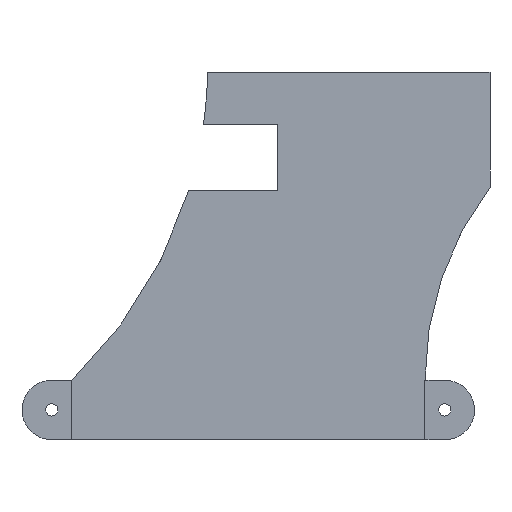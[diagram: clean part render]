
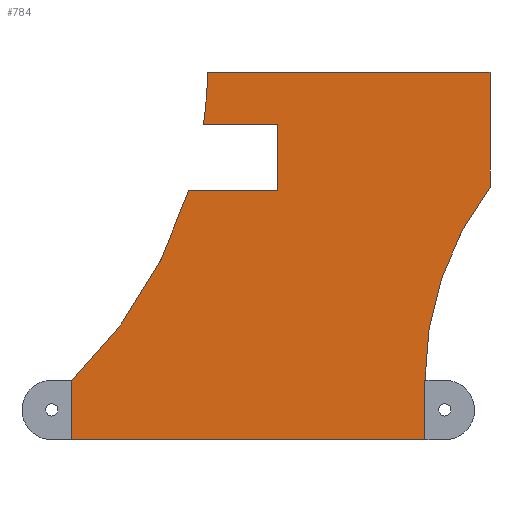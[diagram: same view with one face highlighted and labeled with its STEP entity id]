
A CAD part, left-side view. The second image highlights one B-rep face of the part: STEP entity #784.
In plain terms, the highlighted planar face has unit normal (-1, 0, 0).
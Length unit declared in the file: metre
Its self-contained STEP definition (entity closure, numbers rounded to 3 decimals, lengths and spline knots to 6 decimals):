
#41=PLANE('',#855);
#45=CIRCLE('',#803,0.10752);
#59=CIRCLE('',#840,0.10752);
#61=CIRCLE('',#843,0.078222);
#252=ORIENTED_EDGE('',*,*,#385,.F.);
#253=ORIENTED_EDGE('',*,*,#358,.F.);
#254=ORIENTED_EDGE('',*,*,#311,.T.);
#255=ORIENTED_EDGE('',*,*,#346,.F.);
#256=ORIENTED_EDGE('',*,*,#316,.F.);
#257=ORIENTED_EDGE('',*,*,#364,.F.);
#258=ORIENTED_EDGE('',*,*,#369,.T.);
#259=ORIENTED_EDGE('',*,*,#370,.T.);
#260=ORIENTED_EDGE('',*,*,#282,.F.);
#261=ORIENTED_EDGE('',*,*,#386,.T.);
#262=ORIENTED_EDGE('',*,*,#387,.F.);
#282=EDGE_CURVE('',#390,#392,#45,.T.);
#311=EDGE_CURVE('',#417,#416,#490,.T.);
#316=EDGE_CURVE('',#421,#422,#495,.T.);
#346=EDGE_CURVE('',#422,#416,#519,.T.);
#358=EDGE_CURVE('',#417,#449,#59,.T.);
#364=EDGE_CURVE('',#452,#421,#61,.T.);
#369=EDGE_CURVE('',#452,#455,#532,.T.);
#370=EDGE_CURVE('',#455,#392,#533,.T.);
#385=EDGE_CURVE('',#449,#462,#548,.T.);
#386=EDGE_CURVE('',#390,#463,#549,.T.);
#387=EDGE_CURVE('',#462,#463,#550,.T.);
#390=VERTEX_POINT('',#1070);
#392=VERTEX_POINT('',#1073);
#416=VERTEX_POINT('',#1131);
#417=VERTEX_POINT('',#1133);
#421=VERTEX_POINT('',#1142);
#422=VERTEX_POINT('',#1144);
#449=VERTEX_POINT('',#1229);
#452=VERTEX_POINT('',#1247);
#455=VERTEX_POINT('',#1265);
#462=VERTEX_POINT('',#1299);
#463=VERTEX_POINT('',#1301);
#490=LINE('',#1132,#579);
#495=LINE('',#1143,#584);
#519=LINE('',#1201,#608);
#532=LINE('',#1266,#621);
#533=LINE('',#1268,#622);
#548=LINE('',#1298,#637);
#549=LINE('',#1300,#638);
#550=LINE('',#1302,#639);
#579=VECTOR('',#910,1.);
#584=VECTOR('',#917,1.);
#608=VECTOR('',#961,1.);
#621=VECTOR('',#1018,1.);
#622=VECTOR('',#1021,1.);
#637=VECTOR('',#1054,1.);
#638=VECTOR('',#1055,1.);
#639=VECTOR('',#1056,1.);
#685=EDGE_LOOP('',(#252,#253,#254,#255,#256,#257,#258,#259,#260,#261,#262));
#734=FACE_BOUND('',#685,.T.);
#784=ADVANCED_FACE('',(#734),#41,.T.);
#803=AXIS2_PLACEMENT_3D('',#1072,#865,#866);
#840=AXIS2_PLACEMENT_3D('',#1228,#1001,#1002);
#843=AXIS2_PLACEMENT_3D('',#1248,#1010,#1011);
#855=AXIS2_PLACEMENT_3D('',#1297,#1052,#1053);
#865=DIRECTION('',(-1.,0.,0.));
#866=DIRECTION('',(0.,0.,1.));
#910=DIRECTION('',(0.,0.,-1.));
#917=DIRECTION('',(0.,0.,-1.));
#961=DIRECTION('',(0.,1.,0.));
#1001=DIRECTION('',(-1.,0.,0.));
#1002=DIRECTION('',(0.,0.,1.));
#1010=DIRECTION('',(-1.,0.,0.));
#1011=DIRECTION('',(0.,0.,1.));
#1018=DIRECTION('',(0.,0.,1.));
#1021=DIRECTION('',(0.,1.,0.));
#1052=DIRECTION('',(-1.,0.,0.));
#1053=DIRECTION('',(0.,-1.,0.));
#1054=DIRECTION('',(0.,-1.,0.));
#1055=DIRECTION('',(0.,-1.,0.));
#1056=DIRECTION('',(0.,0.,1.));
#1070=CARTESIAN_POINT('',(-0.090933,0.016674,0.044098));
#1072=CARTESIAN_POINT('',(-0.090933,0.12312,0.059253));
#1073=CARTESIAN_POINT('',(-0.090933,0.015626,0.056907));
#1131=CARTESIAN_POINT('',(-0.090933,0.048997,-0.033256));
#1132=CARTESIAN_POINT('',(-0.090933,0.048997,-0.025944));
#1133=CARTESIAN_POINT('',(-0.090933,0.048997,-0.018633));
#1142=CARTESIAN_POINT('',(-0.090933,-0.037694,-0.018633));
#1143=CARTESIAN_POINT('',(-0.090933,-0.037694,-0.025944));
#1144=CARTESIAN_POINT('',(-0.090933,-0.037694,-0.033256));
#1201=CARTESIAN_POINT('',(-0.090933,0.005651,-0.033256));
#1228=CARTESIAN_POINT('',(-0.090933,0.12312,0.059253));
#1229=CARTESIAN_POINT('',(-0.090933,0.020288,0.027851));
#1247=CARTESIAN_POINT('',(-0.090933,-0.053662,0.028728));
#1248=CARTESIAN_POINT('',(-0.090933,-0.115916,-0.018633));
#1265=CARTESIAN_POINT('',(-0.090933,-0.053662,0.056907));
#1266=CARTESIAN_POINT('',(-0.090933,-0.053662,0.042818));
#1268=CARTESIAN_POINT('',(-0.090933,-0.019018,0.056907));
#1297=CARTESIAN_POINT('',(-0.090933,-0.002333,0.011825));
#1298=CARTESIAN_POINT('',(-0.090933,0.013361,0.027851));
#1299=CARTESIAN_POINT('',(-0.090933,-0.001517,0.027851));
#1300=CARTESIAN_POINT('',(-0.090933,0.013361,0.044098));
#1301=CARTESIAN_POINT('',(-0.090933,-0.001517,0.044098));
#1302=CARTESIAN_POINT('',(-0.090933,-0.001517,0.035975));
